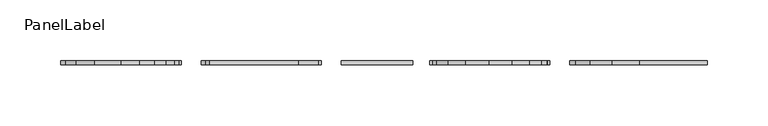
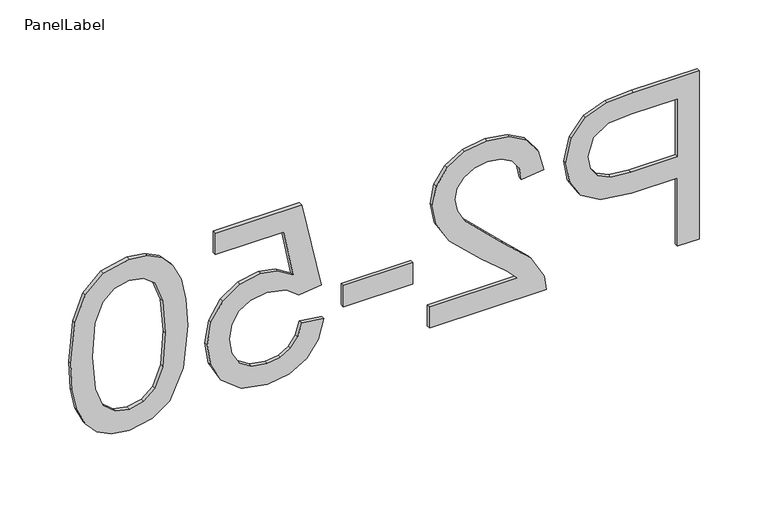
"""IFC4 building model written with IfcOpenShell, lengths in millimetres: fastener geometry, PanelLabel : Miranda."""

from ifc_helpers import new_model, si_unit, frame, origin, place, context, project, spatial, polyline, outline, extrude, source, transform, mapped, element, save


def panellabel_d99a6170(model_context):
    return source(origin(), model_context, "Body", "SweptSolid", [
        extrude(outline(polyline([(1310.9113766, 260.2523077), (1460.9667612, 260.2523077), (1460.9667612, 204.6409615), (1459.5380112, 182.2205769), (1452.5224823, 163.9948558), (1438.0151747, 152.1801923), (1417.554742, 147.7107692), (1399.8693814, 150.7285457), (1385.1331073, 159.781875), (1375.1868093, 176.7116466), (1371.8713766, 203.35875), (1371.8713766, 241.4953846), (1310.9113766, 241.4953846), (1310.9113766, 260.2523077)]), holes=[polyline([(1390.6282997, 241.4953846), (1390.6282997, 202.2597115), (1392.3501266, 185.6275962), (1397.5156073, 174.6372115), (1405.8041891, 168.5100721), (1416.8953189, 166.4676923), (1432.4283958, 171.2851442), (1440.9276266, 183.9424038), (1442.2098381, 202.6993269), (1442.2098381, 241.4953846), (1390.6282997, 241.4953846)])]), frame((0.0, 60.325, 0.0), z_axis=(0.0, 1.0, 0.0), x_axis=(0.0, 0.0, 1.0)), (0.0, 0.0, 1.0), 3.175),
        extrude(outline(polyline([(1329.6682997, 32.8246154), (1310.9113766, 32.8246154), (1310.9113766, 131.2984615), (1323.8433958, 129.2835577), (1343.7543093, 117.8901923), (1365.4969535, 94.4074038), (1396.7462804, 62.0224038), (1407.5168573, 55.9502163), (1417.9943573, 53.9261538), (1427.3865569, 55.8357332), (1435.1943093, 61.5644712), (1440.4559559, 70.3705168), (1442.2098381, 81.5120192), (1440.4971698, 93.2121995), (1435.359165, 102.3021635), (1427.1988045, 108.1682813), (1416.4190689, 110.1969231), (1418.7636843, 128.9538462), (1436.9069775, 124.4065745), (1450.1595497, 114.5747596), (1458.2649583, 99.9712861), (1460.9667612, 81.1090385), (1457.9627227, 62.1094111), (1448.9506073, 47.5334135), (1435.4873862, 38.2602764), (1419.1300304, 35.1692308), (1401.3439247, 38.5029808), (1382.9533477, 49.5849519), (1357.254165, 76.4564423), (1339.211617, 98.0342308), (1329.6682997, 106.4968269), (1329.6682997, 32.8246154)])), frame((0.0, 60.325, 0.0), z_axis=(0.0, 1.0, 0.0), x_axis=(0.0, 0.0, 1.0)), (0.0, 0.0, 1.0), 3.175),
        extrude(outline(polyline([(-39.8584615, 63.5), (18.7569231, 63.5), (18.7569231, 60.325), (-39.8584615, 60.325), (-39.8584615, 63.5)])), frame((0.0, 0.0, 1355.4590689), z_axis=(0.0, 0.0, 1.0), x_axis=(1.0, 0.0, 0.0)), (0.0, 0.0, 1.0), 18.7569231),
        extrude(outline(polyline([(1350.7698381, -56.2707692), (1353.1144535, -75.0276923), (1341.8538886, -78.4713462), (1333.7896939, -84.4794231), (1328.9401867, -93.0244471), (1327.3236843, -104.0789423), (1329.5721338, -117.5238462), (1336.3174823, -127.5983654), (1346.7812444, -133.8903606), (1360.1849343, -135.9876923), (1372.8055593, -134.0231611), (1382.4587804, -128.1295673), (1388.5859198, -118.2611178), (1390.6282997, -104.3720192), (1387.3678189, -87.9047596), (1378.9052227, -77.3723077), (1381.2498381, -58.6153846), (1458.6221458, -75.0276923), (1458.6221458, -147.7107692), (1439.8652227, -147.7107692), (1439.8652227, -90.1944231), (1398.5413766, -82.1714423), (1406.6742612, -95.5705529), (1409.3852227, -109.6107692), (1406.0239968, -127.1358534), (1395.9403189, -141.684375), (1380.5720977, -151.4795553), (1361.357242, -154.7446154), (1342.6003189, -151.8046875), (1326.5543573, -142.9849038), (1313.0636602, -126.0963462), (1308.5667612, -104.0056731), (1311.4563165, -85.5830409), (1320.1249823, -70.9062981), (1333.5653069, -60.8455168), (1350.7698381, -56.2707692)])), frame((0.0, 60.325, 0.0), z_axis=(0.0, 1.0, 0.0), x_axis=(0.0, 0.0, 1.0)), (0.0, 0.0, 1.0), 3.175),
        extrude(outline(polyline([(1384.7301266, -171.1569231), (1408.7486963, -172.5353005), (1427.9040208, -176.6704327), (1442.4891771, -183.5211058), (1452.797242, -193.0461058), (1458.9243814, -205.3141226), (1460.9667612, -220.3938462), (1456.130992, -242.3013462), (1442.1915208, -257.4314423), (1419.9909439, -266.22375), (1384.7301266, -269.6307692), (1360.8489367, -268.2661298), (1341.7394054, -264.1722115), (1327.1405112, -257.3627524), (1316.7912323, -247.8514904), (1310.622879, -235.5559976), (1308.5667612, -220.3938462), (1312.1386362, -200.9042308), (1322.8542612, -186.1038462), (1348.232891, -174.8936538), (1384.7301266, -171.1569231)]), holes=[polyline([(1384.7667612, -189.9138462), (1355.2621578, -192.1119231), (1338.1858477, -198.7061538), (1330.0392251, -208.5242308), (1327.3236843, -220.3938462), (1330.0483838, -232.2634615), (1338.2224823, -242.0815385), (1355.3079511, -248.6757692), (1384.7667612, -250.8738462), (1413.6073622, -248.7490385), (1430.8164727, -242.3746154), (1439.3614968, -232.5748558), (1442.2098381, -220.1740385), (1439.700367, -208.4326442), (1432.1719535, -198.9992308), (1413.8912804, -192.1851923), (1384.7667612, -189.9138462)])]), frame((0.0, 60.325, 0.0), z_axis=(0.0, 1.0, 0.0), x_axis=(0.0, 0.0, 1.0)), (0.0, 0.0, 1.0), 3.175),
    ])


if __name__ == "__main__":
    model = new_model("IFC4")
    model_context = context("Model", 3, world=origin())
    ifc_project = project(units=[si_unit("LENGTHUNIT", "METRE", prefix="MILLI")], contexts=[model_context])
    site = spatial("IfcSite", under=ifc_project)
    building = spatial("IfcBuilding", under=site)
    placement = place(None, origin())
    panellabel_shape = panellabel_d99a6170(model_context)
    element("IfcFastener", 1, ObjectType="PanelLabel : Miranda", at=placement, inside=building, context=model_context, shape_type="MappedRepresentation", body=[
        mapped(panellabel_shape, transform((0.0, 0.0, 0.0), x_axis=(1.0, 0.0, 0.0), y_axis=(0.0, 1.0, 0.0), z_axis=(0.0, 0.0, 1.0))),
    ])
    save(model, "model.ifc")
